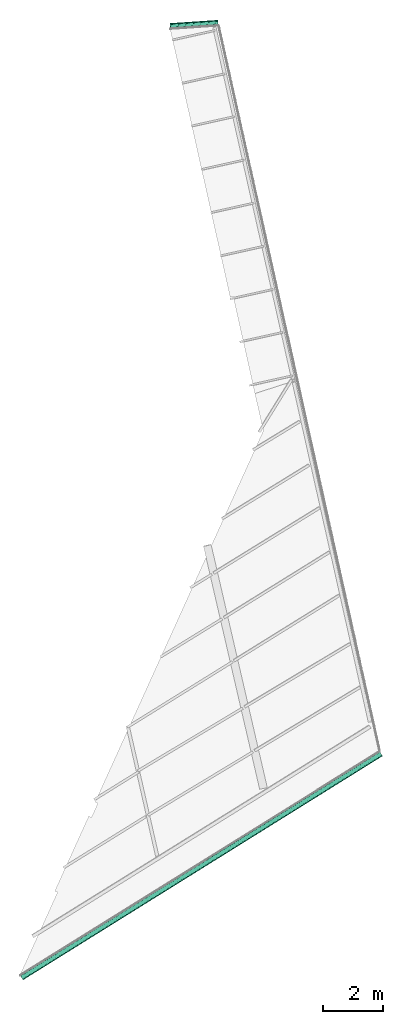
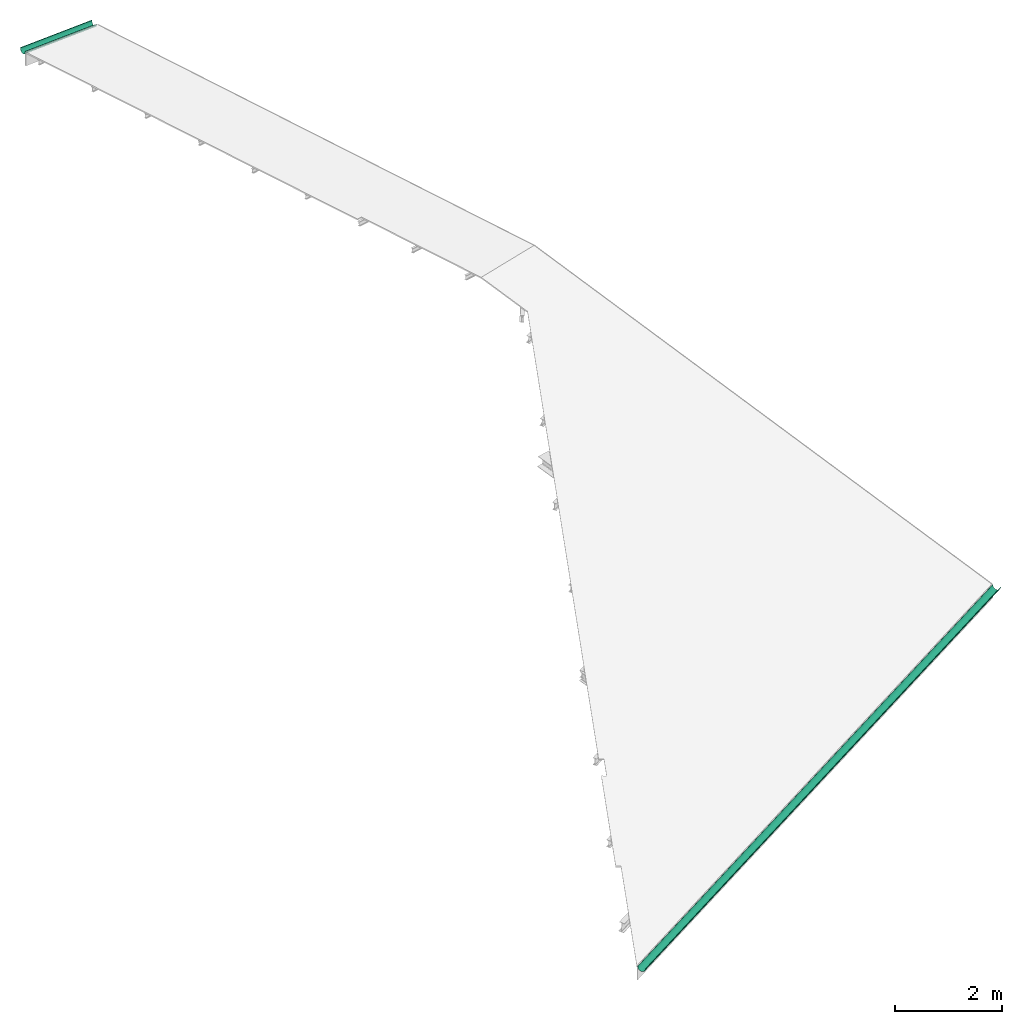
# One storey, part 4 of 5: 2 flow segments.
"""IFC2X3 building model written with IfcOpenShell, lengths in centimetres."""

from ifc_helpers import new_model, entity, si_unit, converted_unit, derived_unit, direction, frame, frame_2d, origin, place, context, subcontext, project, spatial, polyline, circle_curve, parameter, trimmed, segment, composite_curve, outline, extrude, source, transform, mapped, type_object, type_shapes, element, save


model = new_model("IFC2X3")

# Units and contexts
model_context = context("Model", 3, precision=0.001, world=origin(), true_north=direction((6.12303176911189e-17, 1.0)))
body_context = subcontext(model_context, "Body", "Model", "MODEL_VIEW")
ifc_project = project(units=[si_unit("LENGTHUNIT", "METRE", prefix="CENTI"), si_unit("AREAUNIT", "SQUARE_METRE"), si_unit("VOLUMEUNIT", "CUBIC_METRE"), converted_unit("PLANEANGLEUNIT", "DEGREE", entity("IfcRatioMeasure", 0.0174532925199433), si_unit("PLANEANGLEUNIT", "RADIAN"), dimensions=[0, 0, 0, 0, 0, 0, 0]), si_unit("MASSUNIT", "GRAM", prefix="KILO"), derived_unit("MASSDENSITYUNIT", [(si_unit("MASSUNIT", "GRAM", prefix="KILO"), 1), (si_unit("LENGTHUNIT", "METRE"), -3)]), si_unit("TIMEUNIT", "SECOND"), si_unit("FREQUENCYUNIT", "HERTZ"), si_unit("THERMODYNAMICTEMPERATUREUNIT", "DEGREE_CELSIUS"), derived_unit("THERMALTRANSMITTANCEUNIT", [(si_unit("MASSUNIT", "GRAM", prefix="KILO"), 1), (si_unit("THERMODYNAMICTEMPERATUREUNIT", "KELVIN"), -1), (si_unit("TIMEUNIT", "SECOND"), -3)]), derived_unit("VOLUMETRICFLOWRATEUNIT", [(si_unit("LENGTHUNIT", "METRE"), 3), (si_unit("TIMEUNIT", "SECOND"), -1)]), si_unit("ELECTRICCURRENTUNIT", "AMPERE"), si_unit("ELECTRICVOLTAGEUNIT", "VOLT"), si_unit("POWERUNIT", "WATT"), si_unit("FORCEUNIT", "NEWTON", prefix="KILO"), si_unit("ILLUMINANCEUNIT", "LUX"), si_unit("LUMINOUSFLUXUNIT", "LUMEN"), si_unit("LUMINOUSINTENSITYUNIT", "CANDELA"), derived_unit("USERDEFINED", [(si_unit("MASSUNIT", "GRAM", prefix="KILO"), -1), (si_unit("LENGTHUNIT", "METRE"), -2), (si_unit("TIMEUNIT", "SECOND"), 3), (si_unit("LUMINOUSFLUXUNIT", "LUMEN"), 1)]), derived_unit("LINEARVELOCITYUNIT", [(si_unit("LENGTHUNIT", "METRE"), 1), (si_unit("TIMEUNIT", "SECOND"), -1)]), si_unit("PRESSUREUNIT", "PASCAL"), derived_unit("USERDEFINED", [(si_unit("LENGTHUNIT", "METRE"), -2), (si_unit("MASSUNIT", "GRAM", prefix="KILO"), 1), (si_unit("TIMEUNIT", "SECOND"), -2)])], contexts=[model_context])

# Site, building, storey
site_placement = place(None, frame((2611.71187422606, 13650.4058644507, 0.0), z_axis=(0.0, 0.0, 1.0), x_axis=(0.0673222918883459, -0.997731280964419, 0.0)))
site = spatial("IfcSite", under=ifc_project, at=site_placement, Name="Surface", CompositionType="ELEMENT")
building_placement = place(site_placement, origin())
building = spatial("IfcBuilding", under=site, at=building_placement, CompositionType="ELEMENT")
storey_placement = place(building_placement, frame((0.0, 0.0, 87229.0)))
storey = spatial("IfcBuildingStorey", under=building, at=storey_placement, Name="1 Toiture auvent", CompositionType="ELEMENT", Elevation=87229.0)

# Flow segments
pipe_segment_type_1 = type_object("IfcPipeSegmentType", Name="Gouttière:Gouttière demi-ronde 33", PredefinedType="GUTTER")
shared_shape_1 = source(origin(), body_context, "Body", "SweptSolid", [
    extrude(outline(composite_curve([segment(polyline([(-8.15000000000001, -0.225000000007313), (-8.15000000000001, 1.27499999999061)]), True, "CONTINUOUS"), segment(polyline([(-8.15000000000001, 1.27499999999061), (-8.34999999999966, 1.27499999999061)]), True, "CONTINUOUS"), segment(polyline([(-8.34999999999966, 1.27499999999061), (-8.34999999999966, -0.225000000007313)]), True, "CONTINUOUS"), segment(trimmed(circle_curve(frame_2d((-0.149999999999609, -0.225000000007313), x_axis=(1.0, 0.0)), 8.19999999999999), [parameter(180.0)], [parameter(0.0)], True, "PARAMETER"), True, "CONTINUOUS"), segment(trimmed(circle_curve(frame_2d((8.5499999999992, -0.225000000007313), x_axis=(1.0, 0.0)), 0.500000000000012), [parameter(269.999999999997)], [parameter(180.0)], True, "PARAMETER"), False, "CONTINUOUS"), segment(polyline([(8.54999999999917, -0.725000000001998), (8.54999999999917, -0.925000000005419)]), True, "CONTINUOUS"), segment(trimmed(circle_curve(frame_2d((8.5499999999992, -0.225000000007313), x_axis=(1.0, 0.0)), 0.699999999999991), [parameter(269.999999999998)], [parameter(180.0)], True, "PARAMETER"), True, "CONTINUOUS"), segment(trimmed(circle_curve(frame_2d((-0.149999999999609, -0.225000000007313), x_axis=(1.0, 0.0)), 7.99999999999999), [parameter(180.0)], [parameter(0.0)], True, "PARAMETER"), False, "CONTINUOUS")], self_intersect=False)), frame((5068.96049896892, 317.807804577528, 41.0394639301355), z_axis=(0.470413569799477, -0.882446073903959, 0.0), x_axis=(0.882446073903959, 0.470413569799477, 0.0)), (0.0, 0.0, -1.0), 1414.1297242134),
])
type_shapes(pipe_segment_type_1, [shared_shape_1])
flow_segment_1_placement = place(storey_placement, origin())
element("IfcFlowSegment", 1, at=flow_segment_1_placement, inside=storey, type_object=pipe_segment_type_1, Name="Gouttière:Gouttière demi-ronde 33", ObjectType="Gouttière:Gouttière demi-ronde 33", context=body_context, shape_type="MappedRepresentation", body=[
    mapped(shared_shape_1, transform((0.0, 0.0, 0.0), scale=1.0)),
])
pipe_segment_type_2 = type_object("IfcPipeSegmentType", Name="Gouttière:Gouttière demi-ronde 33", PredefinedType="GUTTER")
shared_shape_2 = source(origin(), body_context, "Body", "SweptSolid", [
    extrude(outline(composite_curve([segment(polyline([(-0.22499999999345, 8.14999999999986), (1.27500000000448, 8.14999999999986)]), True, "CONTINUOUS"), segment(polyline([(1.27500000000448, 8.14999999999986), (1.27500000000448, 8.34999999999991)]), True, "CONTINUOUS"), segment(polyline([(1.27500000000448, 8.34999999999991), (-0.22499999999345, 8.34999999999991)]), True, "CONTINUOUS"), segment(trimmed(circle_curve(frame_2d((-0.22499999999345, 0.149999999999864), x_axis=(0.0, -1.0)), 8.19999999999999), [parameter(180.0)], [parameter(0.0)], True, "PARAMETER"), True, "CONTINUOUS"), segment(trimmed(circle_curve(frame_2d((-0.22499999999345, -8.55000000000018), x_axis=(0.0, -1.0)), 0.500000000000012), [parameter(270.0)], [parameter(180.0)], True, "PARAMETER"), False, "CONTINUOUS"), segment(polyline([(-0.724999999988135, -8.55000000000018), (-0.924999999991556, -8.55000000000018)]), True, "CONTINUOUS"), segment(trimmed(circle_curve(frame_2d((-0.22499999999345, -8.55000000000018), x_axis=(0.0, -1.0)), 0.699999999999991), [parameter(270.0)], [parameter(180.0)], True, "PARAMETER"), True, "CONTINUOUS"), segment(trimmed(circle_curve(frame_2d((-0.22499999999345, 0.149999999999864), x_axis=(0.0, -1.0)), 7.99999999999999), [parameter(180.0)], [parameter(0.0)], True, "PARAMETER"), False, "CONTINUOUS")], self_intersect=False)), frame((1931.32474230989, 1025.87754497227, 41.0394639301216), z_axis=(0.0, 1.0, 0.0), x_axis=(0.0, 0.0, 1.0)), (0.0, 0.0, 1.0), 161.450429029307),
])
type_shapes(pipe_segment_type_2, [shared_shape_2])
flow_segment_2_placement = place(storey_placement, origin())
element("IfcFlowSegment", 2, at=flow_segment_2_placement, inside=storey, type_object=pipe_segment_type_2, Name="Gouttière:Gouttière demi-ronde 33", ObjectType="Gouttière:Gouttière demi-ronde 33", context=body_context, shape_type="MappedRepresentation", body=[
    mapped(shared_shape_2, transform((0.0, 0.0, 0.0), scale=1.0)),
])

save(model, "model.ifc")
